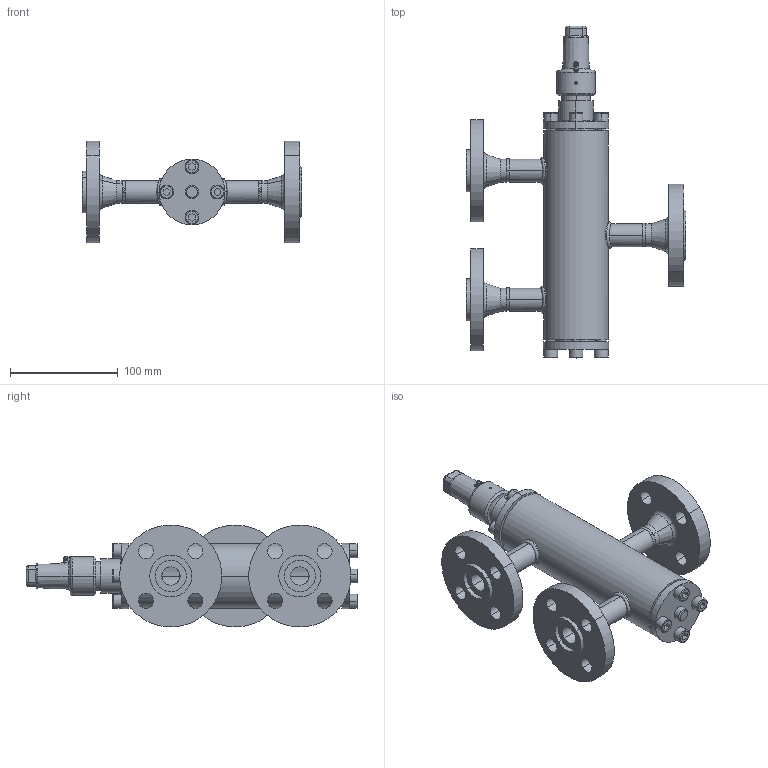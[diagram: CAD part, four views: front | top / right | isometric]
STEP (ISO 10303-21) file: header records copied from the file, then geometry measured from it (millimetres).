
FILE_DESCRIPTION (( 'STEP AP214' ), '1' );
FILE_NAME ('WVR24020D10-DN015_DIN-FL-N-F_PS40.STEP', '2010-09-08T08:47:21', ( 'Eckhard Grams' ), ( 'AWP Kälte Klima Armaturen GmbH' ), 'SwSTEP 2.0', 'SolidWorks 2002296', '' );
FILE_SCHEMA (( 'AUTOMOTIVE_DESIGN' ));
Length unit declared in the file: millimetre
Products named in the file (18): WVR24020D10-DN015_DIN-FL-N-F_PS40; WVB-R23000K10_Deck+Schr-DN10-20_Standard; Zylinderschraube-DIN912_M 8x  25; Deckel24000E10-DN10-20_Standard; Kappe 96300E10_DN6-20 (M27x2)_Standard; AVR26300K10_Deck+Schr-DN10-20_Standard; Deckel26300K10-DN10-20_Standard; Zylinderschraube-DIN912_M 8x  16; Geh,kpl24020E10-DN15_DIN-FL-N-F_PS40_Standard; Flansch-DIN2635-Nut_PS40_DIN-Flansch-DN015_PS40-Nut; Geh,kpl24000E10_DN15_R1_PS40_Standard; Gehäuse24000E10-DN15_R1_PS40_Standard; Rohrstutzen-24000E10-DN15_R1_Standard; Schw-24000E10-DN15_Standard; Flansch-DIN2635-Feder_PS40_DIN-Flansch-DN015_PS40-Feder; bead24020-10-3_Standard; bead24020-10-2_Standard; bead24020-10-1_Standard
Assembly tree (28 placements, depth 4):
  WVR24020D10-DN015_DIN-FL-N-F_PS40
    Kappe 96300E10_DN6-20 (M27x2)_Standard
    Geh,kpl24020E10-DN15_DIN-FL-N-F_PS40_Standard
      bead24020-10-2_Standard
      Flansch-DIN2635-Feder_PS40_DIN-Flansch-DN015_PS40-Feder  x2
      Flansch-DIN2635-Nut_PS40_DIN-Flansch-DN015_PS40-Nut
      Geh,kpl24000E10_DN15_R1_PS40_Standard
        Schw-24000E10-DN15_Standard  x3
        Rohrstutzen-24000E10-DN15_R1_Standard  x3
        Gehäuse24000E10-DN15_R1_PS40_Standard
      bead24020-10-3_Standard
      bead24020-10-1_Standard
    WVB-R23000K10_Deck+Schr-DN10-20_Standard
      Zylinderschraube-DIN912_M 8x  25  x4
      Deckel24000E10-DN10-20_Standard
    AVR26300K10_Deck+Schr-DN10-20_Standard
      Zylinderschraube-DIN912_M 8x  16  x4
      Deckel26300K10-DN10-20_Standard
Bounding box: 204 x 308.5 x 94.64 mm (x, y, z)
Volume: 756719.5 mm3; surface area: 189768.6 mm2
Topology: 24 solids, 24 shells, 516 faces, 1175 edges, 737 vertices
Faces by surface type: cylinder 224, plane 144, cone 67, torus 47, bspline 34
Entity records: 27111 total; most frequent: CARTESIAN_POINT 18040, DIRECTION 1711, ORIENTED_EDGE 1582, EDGE_CURVE 791, AXIS2_PLACEMENT_3D 724, VERTEX_POINT 495, EDGE_LOOP 418, CIRCLE 374
